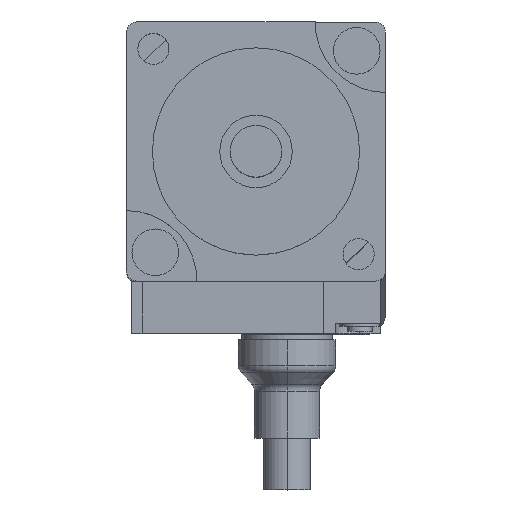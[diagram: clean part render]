
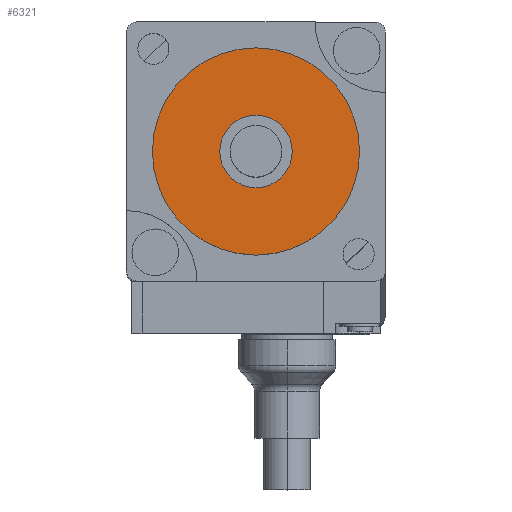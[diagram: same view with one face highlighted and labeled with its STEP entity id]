
A CAD part, top view. The second image highlights one B-rep face of the part: STEP entity #6321.
In plain terms, the highlighted planar face has unit normal (0, 0, 1).
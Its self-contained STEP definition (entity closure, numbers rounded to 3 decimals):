
#2347=CARTESIAN_POINT('',(0.,0.,2.5));
#2348=DIRECTION('',(0.,0.,-1.));
#2349=DIRECTION('',(-1.,0.,0.));
#2350=AXIS2_PLACEMENT_3D('',#2347,#2348,#2349);
#2352=CARTESIAN_POINT('',(0.,0.,2.5));
#2353=DIRECTION('',(0.,0.,-1.));
#2354=DIRECTION('',(1.,0.,0.));
#2355=AXIS2_PLACEMENT_3D('',#2352,#2353,#2354);
#2357=CARTESIAN_POINT('',(0.,0.,2.5));
#2358=DIRECTION('',(0.,0.,1.));
#2359=DIRECTION('',(1.,0.,0.));
#2360=AXIS2_PLACEMENT_3D('',#2357,#2358,#2359);
#2362=CARTESIAN_POINT('',(0.,0.,2.5));
#2363=DIRECTION('',(0.,0.,1.));
#2364=DIRECTION('',(-1.,0.,0.));
#2365=AXIS2_PLACEMENT_3D('',#2362,#2363,#2364);
#2441=CARTESIAN_POINT('',(10.,0.,2.5));
#2442=VERTEX_POINT('',#2441);
#2443=CARTESIAN_POINT('',(-10.,0.,2.5));
#2444=VERTEX_POINT('',#2443);
#2953=CARTESIAN_POINT('',(3.5,0.,2.5));
#2954=CARTESIAN_POINT('',(-3.5,0.,2.5));
#2955=VERTEX_POINT('',#2953);
#2956=VERTEX_POINT('',#2954);
#6306=CARTESIAN_POINT('',(0.,0.,2.5));
#6307=DIRECTION('',(0.,0.,1.));
#6308=DIRECTION('',(1.,0.,0.));
#6309=AXIS2_PLACEMENT_3D('',#6306,#6307,#6308);
#6310=PLANE('',#6309);
#6311=ORIENTED_EDGE('',*,*,#6285,.T.);
#6312=ORIENTED_EDGE('',*,*,#6301,.T.);
#6313=EDGE_LOOP('',(#6311,#6312));
#6314=FACE_OUTER_BOUND('',#6313,.F.);
#6316=ORIENTED_EDGE('',*,*,#6315,.T.);
#6318=ORIENTED_EDGE('',*,*,#6317,.T.);
#6319=EDGE_LOOP('',(#6316,#6318));
#6320=FACE_BOUND('',#6319,.F.);
#6321=ADVANCED_FACE('',(#6314,#6320),#6310,.T.);
#2351=CIRCLE('',#2350,10.);
#2356=CIRCLE('',#2355,10.);
#2361=CIRCLE('',#2360,3.5);
#2366=CIRCLE('',#2365,3.5);
#6285=EDGE_CURVE('',#2444,#2442,#2351,.T.);
#6301=EDGE_CURVE('',#2442,#2444,#2356,.T.);
#6315=EDGE_CURVE('',#2955,#2956,#2361,.T.);
#6317=EDGE_CURVE('',#2956,#2955,#2366,.T.);
